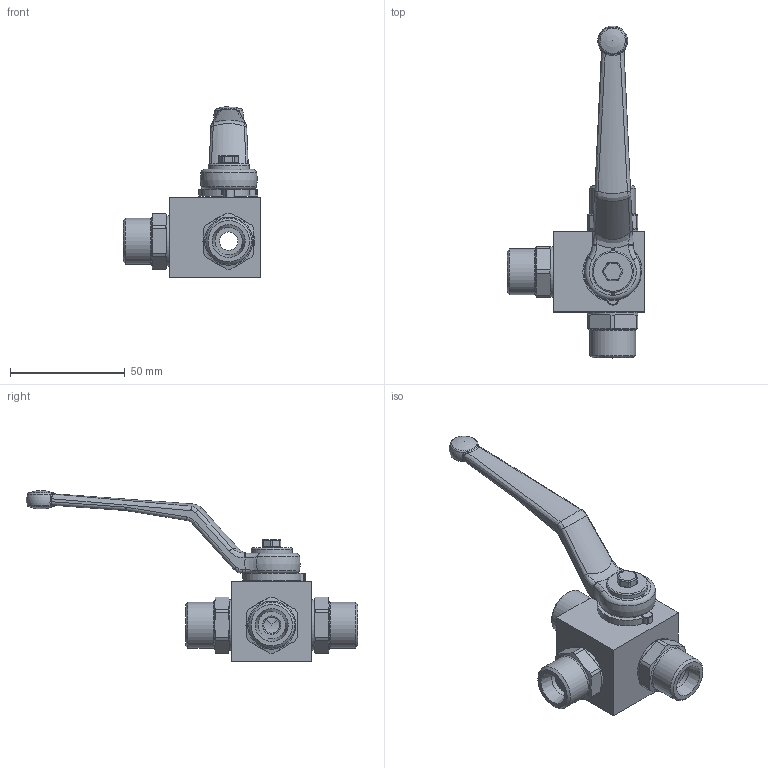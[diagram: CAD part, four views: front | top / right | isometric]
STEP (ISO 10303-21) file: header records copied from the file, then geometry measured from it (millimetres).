
FILE_DESCRIPTION( ( 'Unknown' ), '1' );
FILE_NAME( 'H:/PISTER/3D-MODELLE/BK3-Edelstahl stp/BK3-Edelst DN8 12S.stp', 'Unknown', ( 'Unknown' ), ( 'Unknown' ), 'PSStep 14.0', 'Unknown', ' ' );
FILE_SCHEMA( ( 'AUTOMOTIVE_DESIGN { 1 0 10303 214 1 1 1 1 }' ) );
Length unit declared in the file: millimetre
Products named in the file (11): Assem1; 56-032-337-oa5; 09-09-003; 58-28740-16-oa6; 58-0440-009; 58-0933-235; 04-008-028-oa7; 04-008-028-oa8; 06-008-007-oa11; Griff_SW9; 01-008-020-oa12
Assembly tree (10 placements, depth 2):
  Assem1
    56-032-337-oa5
    09-09-003
    58-28740-16-oa6
    58-0440-009
    58-0933-235
    04-008-028-oa7
    04-008-028-oa8
    06-008-007-oa11
    Griff_SW9
    01-008-020-oa12
Bounding box: 60 x 144.5 x 74.4 mm (x, y, z)
Volume: 63853.1 mm3; surface area: 27722.4 mm2
Topology: 10 solids, 10 shells, 371 faces, 923 edges, 578 vertices
Faces by surface type: cylinder 127, plane 120, cone 47, torus 37, bspline 36, sphere 4
Full cylindrical faces by diameter (mm): 4.134 x1, 4.98 x1, 5 x1, 5.8 x1, 7 x1, 8 x3, 12 x3, 14 x2, 17.1 x1, 18 x1, 18.376 x1, 18.5 x1, 20 x8, 20.3 x3, 22 x3, 22.5 x3
Entity records: 15253 total; most frequent: CARTESIAN_POINT 4040, DIRECTION 1678, ORIENTED_EDGE 1604, EDGE_CURVE 802, AXIS2_PLACEMENT_3D 692, VERTEX_POINT 535, EDGE_LOOP 473, FACE_OUTER_BOUND 418
